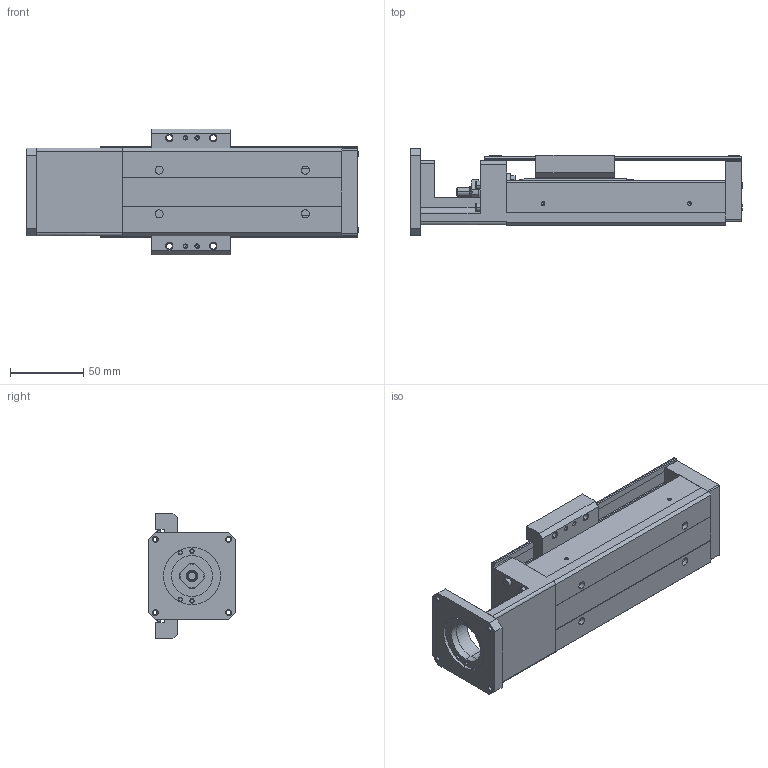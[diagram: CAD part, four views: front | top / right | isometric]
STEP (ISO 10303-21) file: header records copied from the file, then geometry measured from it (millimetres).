
FILE_DESCRIPTION (( 'STEP AP203' ), '1' );
FILE_NAME ('PA-33-150-23X.STEP', '2010-06-10T15:15:59', ( 'render' ), ( '' ), 'SwSTEP 2.0', 'SolidWorks 2009', '' );
FILE_SCHEMA (( 'CONFIG_CONTROL_DESIGN' ));
Length unit declared in the file: millimetre
Products named in the file (1): PA-33-150-23X
Bounding box: 227 x 60 x 86 mm (x, y, z)
Volume: 386991.9 mm3; surface area: 128439 mm2
Topology: 5 solids, 6 shells, 692 faces, 1765 edges, 1102 vertices
Faces by surface type: plane 293, cylinder 215, cone 162, bspline 22
Entity records: 21129 total; most frequent: CARTESIAN_POINT 4098, DIRECTION 3638, ORIENTED_EDGE 3454, EDGE_CURVE 1727, AXIS2_PLACEMENT_3D 1286, VERTEX_POINT 1102, LINE 1066, VECTOR 1066
